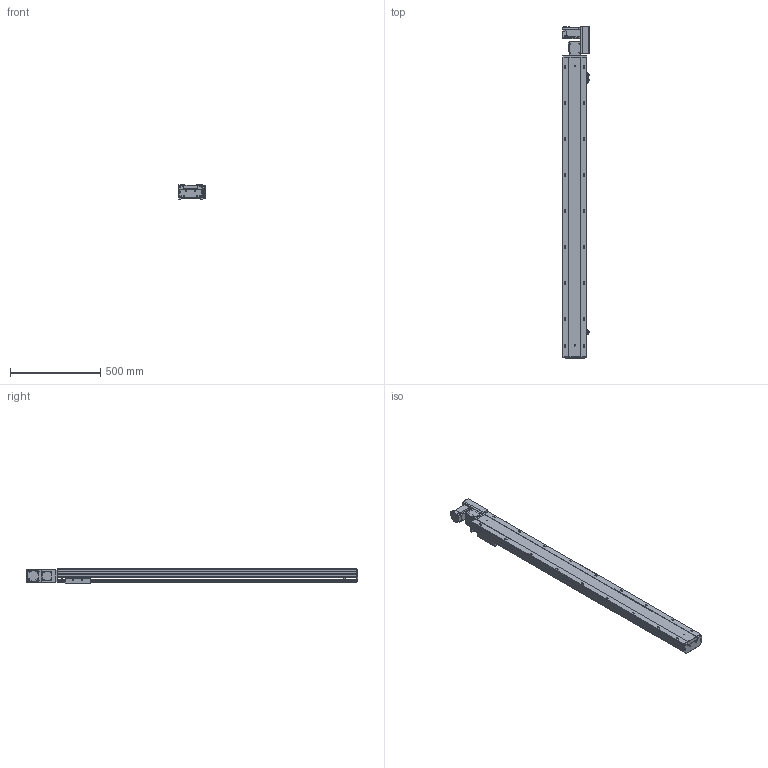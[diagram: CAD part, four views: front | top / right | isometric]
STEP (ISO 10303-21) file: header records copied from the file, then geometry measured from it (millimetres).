
FILE_DESCRIPTION (( 'STEP AP203' ), '1' );
FILE_NAME ('140.STEP', '2022-07-20T11:58:19', ( '' ), ( '' ), 'SwSTEP 2.0', 'SolidWorks 2016', '' );
FILE_SCHEMA (( 'CONFIG_CONTROL_DESIGN' ));
Length unit declared in the file: millimetre
Products named in the file (10): BTB14-L-菁釱_XD; BTB14-L-M40; BTB14-L-01; BTB14-L-23; BTB14-L-24; BTB14-L-02; BTB14-L-HZ; BTB14-L-04; BTB14-L-06; 140
Assembly tree (12 placements, depth 2):
  140
    BTB14-L-菁釱_XD
    BTB14-L-01
    BTB14-L-02
    BTB14-L-04  x3
    BTB14-L-06
    BTB14-L-23  x2
    BTB14-L-24
    BTB14-L-HZ
    BTB14-L-M40
Bounding box: 148.7 x 1843.5 x 78 mm (x, y, z)
Volume: 7889348.5 mm3; surface area: 1651332.6 mm2
Topology: 22 solids, 22 shells, 1642 faces, 4341 edges, 2764 vertices
Faces by surface type: plane 937, cylinder 480, cone 136, bspline 77, torus 12
Entity records: 43622 total; most frequent: CARTESIAN_POINT 10715, ORIENTED_EDGE 6580, DIRECTION 6556, EDGE_CURVE 3290, VECTOR 2230, LINE 2230, AXIS2_PLACEMENT_3D 2163, VERTEX_POINT 2142
